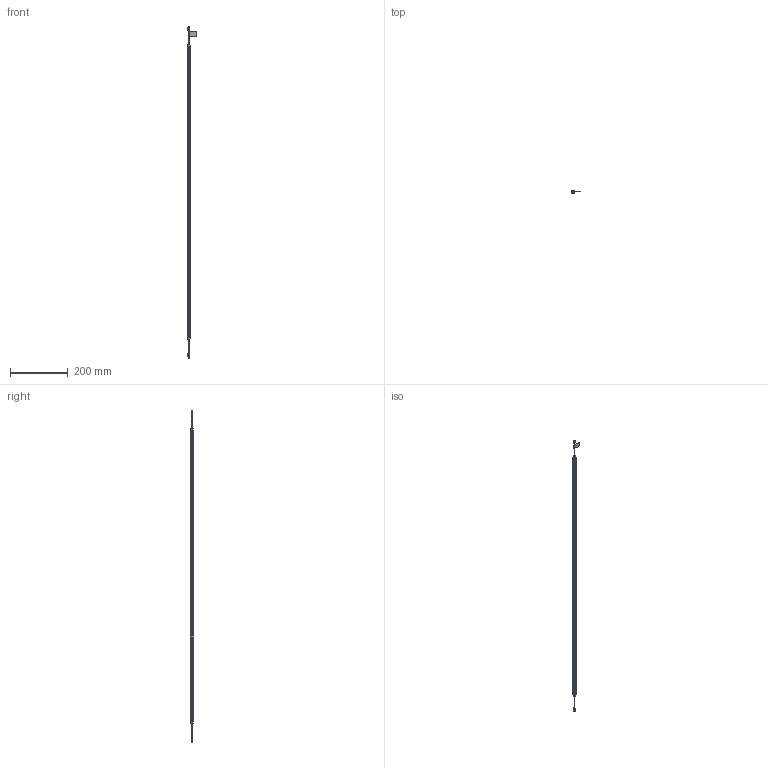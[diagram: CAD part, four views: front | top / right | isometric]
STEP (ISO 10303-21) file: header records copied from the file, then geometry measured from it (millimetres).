
FILE_DESCRIPTION (( 'STEP AP203' ), '1' );
FILE_NAME ('Versa_Fix_8x12_24.STEP', '2024-11-28T06:39:01', ( '' ), ( '' ), 'SwSTEP 2.0', 'SolidWorks 2023', '' );
FILE_SCHEMA (( 'CONFIG_CONTROL_DESIGN' ));
Length unit declared in the file: millimetre
Products named in the file (6): 1916503_Pr1251_Mini_Stecker_LED_sw__Kabel L=50 mm; 5581540_Pr02668_VersaSuperPlus_24VDC_Anfang; .h_Aufkleber_LiYZ_ohne_Text; Versa_Fix_8x12_24; 5581540_Pr02668_VersaSuperPlus_24VDC_Ende
Assembly tree (5 placements, depth 2):
  Versa_Fix_8x12_24
    5581540_Pr02668_VersaSuperPlus_24VDC_Anfang
    1916503_Pr1251_Mini_Stecker_LED_sw__Kabel L=50 mm
    5581540_Pr02668_VersaSuperPlus_24VDC_Ende
    1916503_Pr1251_Mini_Stecker_LED_sw__Kabel L=50 mm
    .h_Aufkleber_LiYZ_ohne_Text
Bounding box: 29.14 x 12 x 1145 mm (x, y, z)
Volume: 97465.8 mm3; surface area: 75870.5 mm2
Topology: 18 solids, 18 shells, 810 faces, 2009 edges, 1167 vertices
Faces by surface type: plane 424, cylinder 242, sphere 58, torus 52, bspline 30, cone 4
Entity records: 24091 total; most frequent: CARTESIAN_POINT 4900, DIRECTION 3885, ORIENTED_EDGE 3850, EDGE_CURVE 1925, VECTOR 1365, LINE 1365, AXIS2_PLACEMENT_3D 1260, VERTEX_POINT 1163
